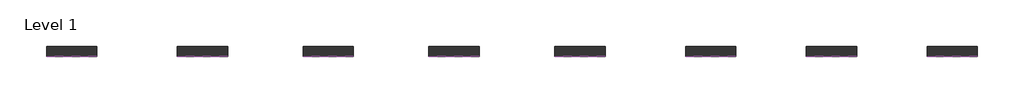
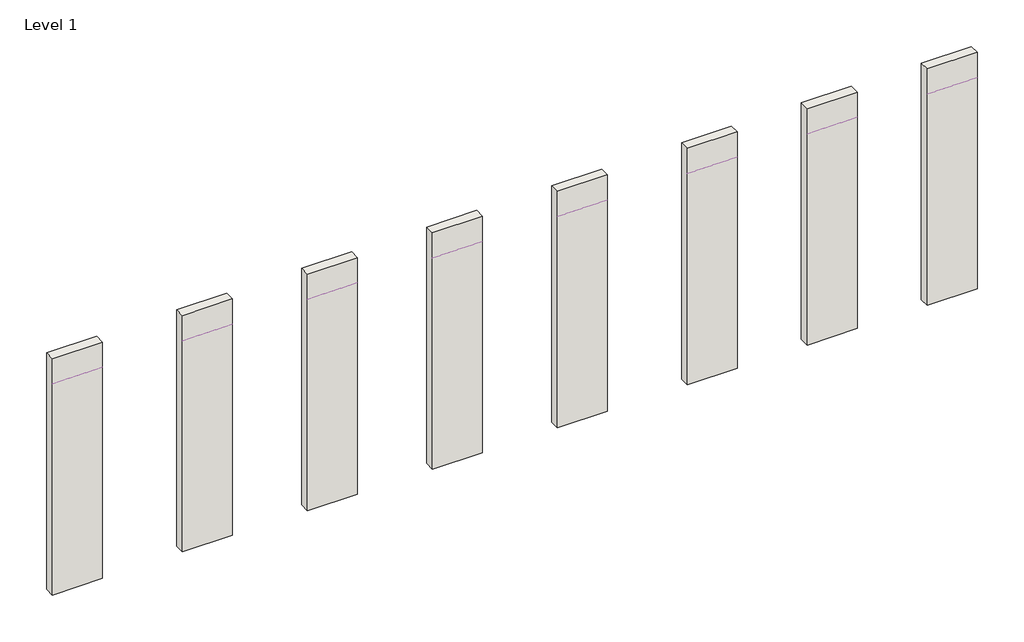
# One storey: 8 coverings, 8 walls.
"""IFC4 building model written with IfcOpenShell, lengths in millimetres."""

from ifc_helpers import new_model, si_unit, point, frame, frame_2d, origin, place, context, project, spatial, polyline, circle_curve, trimmed, segment, composite_curve, outline, extrude, element, save

model = new_model("IFC4")

# Units and contexts
model_context = context("Model", 3, world=origin())
ifc_project = project(units=[si_unit("LENGTHUNIT", "METRE", prefix="MILLI")], contexts=[model_context])

# Site, building, storey
site = spatial("IfcSite", under=ifc_project)
building = spatial("IfcBuilding", under=site)
storey = spatial("IfcBuildingStorey", under=building, Name="Level 1", Elevation=0.0)

# Coverings
placement = place(None, origin())
element("IfcCovering", 1, ObjectType="REVIGRÉS-PIGMENTO-RB-9,5X30-NAT-AREIA", at=placement, inside=storey, context=model_context, shape_type="SweptSolid", body=[
    extrude(outline(composite_curve([segment(polyline([(-6973.1153225, 4350.0), (-6980.1153225, 4350.0), (-6980.1153225, 4438.0)]), True, "CONTINUOUS"), segment(trimmed(circle_curve(frame_2d((-6973.1153225, 4438.0)), 7.0), [point((-6980.1153225, 4438.0))], [point((-6973.1153225, 4445.0))], False, "CARTESIAN"), True, "CONTINUOUS"), segment(polyline([(-6973.1153225, 4445.0), (-6973.1153225, 4350.0)]), True, "CONTINUOUS")], self_intersect=False)), frame((5792.0023157, 0.0, 0.0), z_axis=(1.0, 0.0, 0.0), x_axis=(0.0, 1.0, 0.0)), (0.0, 0.0, 1.0), 1000.0),
])
element("IfcCovering", 2, ObjectType="REVIGRÉS-PIGMENTO-RB-9,5X30-ANTISLIPNAT-AREIA", at=placement, inside=storey, context=model_context, shape_type="SweptSolid", body=[
    extrude(outline(composite_curve([segment(polyline([(-6973.1153225, 4350.0), (-6980.1153225, 4350.0), (-6980.1153225, 4438.0)]), True, "CONTINUOUS"), segment(trimmed(circle_curve(frame_2d((-6973.1153225, 4438.0)), 7.0), [point((-6980.1153225, 4438.0))], [point((-6973.1153225, 4445.0))], False, "CARTESIAN"), True, "CONTINUOUS"), segment(polyline([(-6973.1153225, 4445.0), (-6973.1153225, 4350.0)]), True, "CONTINUOUS")], self_intersect=False)), frame((8392.0023157, 0.0, 0.0), z_axis=(1.0, 0.0, 0.0), x_axis=(0.0, 1.0, 0.0)), (0.0, 0.0, 1.0), 1000.0),
])
element("IfcCovering", 3, ObjectType="REVIGRÉS-PIGMENTO-RB-9,5X30-NAT-CHUMBO", at=placement, inside=storey, context=model_context, shape_type="SweptSolid", body=[
    extrude(outline(composite_curve([segment(polyline([(-6973.1153225, 4350.0), (-6980.1153225, 4350.0), (-6980.1153225, 4438.0)]), True, "CONTINUOUS"), segment(trimmed(circle_curve(frame_2d((-6973.1153225, 4438.0)), 7.0), [point((-6980.1153225, 4438.0))], [point((-6973.1153225, 4445.0))], False, "CARTESIAN"), True, "CONTINUOUS"), segment(polyline([(-6973.1153225, 4445.0), (-6973.1153225, 4350.0)]), True, "CONTINUOUS")], self_intersect=False)), frame((10892.0023157, 0.0, 0.0), z_axis=(1.0, 0.0, 0.0), x_axis=(0.0, 1.0, 0.0)), (0.0, 0.0, 1.0), 1000.0),
])
element("IfcCovering", 4, ObjectType="REVIGRÉS-PIGMENTO-RB-9,5X30-ANTISLIPNAT-CHUMBO", at=placement, inside=storey, context=model_context, shape_type="SweptSolid", body=[
    extrude(outline(composite_curve([segment(polyline([(-6973.1153225, 4350.0), (-6980.1153225, 4350.0), (-6980.1153225, 4438.0)]), True, "CONTINUOUS"), segment(trimmed(circle_curve(frame_2d((-6973.1153225, 4438.0)), 7.0), [point((-6980.1153225, 4438.0))], [point((-6973.1153225, 4445.0))], False, "CARTESIAN"), True, "CONTINUOUS"), segment(polyline([(-6973.1153225, 4445.0), (-6973.1153225, 4350.0)]), True, "CONTINUOUS")], self_intersect=False)), frame((13392.0023157, 0.0, 0.0), z_axis=(1.0, 0.0, 0.0), x_axis=(0.0, 1.0, 0.0)), (0.0, 0.0, 1.0), 1000.0),
])
element("IfcCovering", 5, ObjectType="REVIGRÉS-PIGMENTO-RB-9,5X30-NAT-GRAFITE", at=placement, inside=storey, context=model_context, shape_type="SweptSolid", body=[
    extrude(outline(composite_curve([segment(polyline([(-6973.1153225, 4350.0), (-6980.1153225, 4350.0), (-6980.1153225, 4438.0)]), True, "CONTINUOUS"), segment(trimmed(circle_curve(frame_2d((-6973.1153225, 4438.0)), 7.0), [point((-6980.1153225, 4438.0))], [point((-6973.1153225, 4445.0))], False, "CARTESIAN"), True, "CONTINUOUS"), segment(polyline([(-6973.1153225, 4445.0), (-6973.1153225, 4350.0)]), True, "CONTINUOUS")], self_intersect=False)), frame((15892.0023157, 0.0, 0.0), z_axis=(1.0, 0.0, 0.0), x_axis=(0.0, 1.0, 0.0)), (0.0, 0.0, 1.0), 1000.0),
])
element("IfcCovering", 6, ObjectType="REVIGRÉS-PIGMENTO-RB-9,5X30-ANTISLIPNAT-GRAFITE", at=placement, inside=storey, context=model_context, shape_type="SweptSolid", body=[
    extrude(outline(composite_curve([segment(polyline([(-6973.1153225, 4350.0), (-6980.1153225, 4350.0), (-6980.1153225, 4438.0)]), True, "CONTINUOUS"), segment(trimmed(circle_curve(frame_2d((-6973.1153225, 4438.0)), 7.0), [point((-6980.1153225, 4438.0))], [point((-6973.1153225, 4445.0))], False, "CARTESIAN"), True, "CONTINUOUS"), segment(polyline([(-6973.1153225, 4445.0), (-6973.1153225, 4350.0)]), True, "CONTINUOUS")], self_intersect=False)), frame((18492.0023157, 0.0, 0.0), z_axis=(1.0, 0.0, 0.0), x_axis=(0.0, 1.0, 0.0)), (0.0, 0.0, 1.0), 1000.0),
])
element("IfcCovering", 7, ObjectType="REVIGRÉS-PIGMENTO-RB-9,5X30-NAT-LUNA", at=placement, inside=storey, context=model_context, shape_type="SweptSolid", body=[
    extrude(outline(composite_curve([segment(polyline([(-6973.1153225, 4350.0), (-6980.1153225, 4350.0), (-6980.1153225, 4438.0)]), True, "CONTINUOUS"), segment(trimmed(circle_curve(frame_2d((-6973.1153225, 4438.0)), 7.0), [point((-6980.1153225, 4438.0))], [point((-6973.1153225, 4445.0))], False, "CARTESIAN"), True, "CONTINUOUS"), segment(polyline([(-6973.1153225, 4445.0), (-6973.1153225, 4350.0)]), True, "CONTINUOUS")], self_intersect=False)), frame((20892.0023157, 0.0, 0.0), z_axis=(1.0, 0.0, 0.0), x_axis=(0.0, 1.0, 0.0)), (0.0, 0.0, 1.0), 1000.0),
])
element("IfcCovering", 8, ObjectType="REVIGRÉS-PIGMENTO-RB-9,5X30-ANTISLIPNAT-LUNA", at=placement, inside=storey, context=model_context, shape_type="SweptSolid", body=[
    extrude(outline(composite_curve([segment(polyline([(-6973.1153225, 4350.0), (-6980.1153225, 4350.0), (-6980.1153225, 4438.0)]), True, "CONTINUOUS"), segment(trimmed(circle_curve(frame_2d((-6973.1153225, 4438.0)), 7.0), [point((-6980.1153225, 4438.0))], [point((-6973.1153225, 4445.0))], False, "CARTESIAN"), True, "CONTINUOUS"), segment(polyline([(-6973.1153225, 4445.0), (-6973.1153225, 4350.0)]), True, "CONTINUOUS")], self_intersect=False)), frame((23292.0023157, 0.0, 0.0), z_axis=(1.0, 0.0, 0.0), x_axis=(0.0, 1.0, 0.0)), (0.0, 0.0, 1.0), 1000.0),
])

# Walls
element("IfcWall", 9, ObjectType="Wall 1", at=placement, inside=storey, context=model_context, shape_type="SweptSolid", body=[
    extrude(outline(polyline([(6792.0023157, -6973.1153225), (5792.0023157, -6973.1153225), (5792.0023157, -6773.1153225), (6792.0023157, -6773.1153225), (6792.0023157, -6973.1153225)])), frame((0.0, 0.0, -118.9026935), z_axis=(0.0, 0.0, 1.0), x_axis=(1.0, 0.0, 0.0)), (0.0, 0.0, 1.0), 5000.0),
])
element("IfcWall", 10, ObjectType="Wall 1", at=placement, inside=storey, context=model_context, shape_type="SweptSolid", body=[
    extrude(outline(polyline([(9392.0023157, -6973.1153225), (8392.0023157, -6973.1153225), (8392.0023157, -6773.1153225), (9392.0023157, -6773.1153225), (9392.0023157, -6973.1153225)])), frame((0.0, 0.0, -118.9026935), z_axis=(0.0, 0.0, 1.0), x_axis=(1.0, 0.0, 0.0)), (0.0, 0.0, 1.0), 5000.0),
])
element("IfcWall", 11, ObjectType="Wall 1", at=placement, inside=storey, context=model_context, shape_type="SweptSolid", body=[
    extrude(outline(polyline([(11892.0023157, -6973.1153225), (10892.0023157, -6973.1153225), (10892.0023157, -6773.1153225), (11892.0023157, -6773.1153225), (11892.0023157, -6973.1153225)])), frame((0.0, 0.0, -118.9026935), z_axis=(0.0, 0.0, 1.0), x_axis=(1.0, 0.0, 0.0)), (0.0, 0.0, 1.0), 5000.0),
])
element("IfcWall", 12, ObjectType="Wall 1", at=placement, inside=storey, context=model_context, shape_type="SweptSolid", body=[
    extrude(outline(polyline([(14392.0023157, -6973.1153225), (13392.0023157, -6973.1153225), (13392.0023157, -6773.1153225), (14392.0023157, -6773.1153225), (14392.0023157, -6973.1153225)])), frame((0.0, 0.0, -118.9026935), z_axis=(0.0, 0.0, 1.0), x_axis=(1.0, 0.0, 0.0)), (0.0, 0.0, 1.0), 5000.0),
])
element("IfcWall", 13, ObjectType="Wall 1", at=placement, inside=storey, context=model_context, shape_type="SweptSolid", body=[
    extrude(outline(polyline([(16892.0023157, -6973.1153225), (15892.0023157, -6973.1153225), (15892.0023157, -6773.1153225), (16892.0023157, -6773.1153225), (16892.0023157, -6973.1153225)])), frame((0.0, 0.0, -118.9026935), z_axis=(0.0, 0.0, 1.0), x_axis=(1.0, 0.0, 0.0)), (0.0, 0.0, 1.0), 5000.0),
])
element("IfcWall", 14, ObjectType="Wall 1", at=placement, inside=storey, context=model_context, shape_type="SweptSolid", body=[
    extrude(outline(polyline([(19492.0023157, -6973.1153225), (18492.0023157, -6973.1153225), (18492.0023157, -6773.1153225), (19492.0023157, -6773.1153225), (19492.0023157, -6973.1153225)])), frame((0.0, 0.0, -118.9026935), z_axis=(0.0, 0.0, 1.0), x_axis=(1.0, 0.0, 0.0)), (0.0, 0.0, 1.0), 5000.0),
])
element("IfcWall", 15, ObjectType="Wall 1", at=placement, inside=storey, context=model_context, shape_type="SweptSolid", body=[
    extrude(outline(polyline([(21892.0023157, -6973.1153225), (20892.0023157, -6973.1153225), (20892.0023157, -6773.1153225), (21892.0023157, -6773.1153225), (21892.0023157, -6973.1153225)])), frame((0.0, 0.0, -118.9026935), z_axis=(0.0, 0.0, 1.0), x_axis=(1.0, 0.0, 0.0)), (0.0, 0.0, 1.0), 5000.0),
])
element("IfcWall", 16, ObjectType="Wall 1", at=placement, inside=storey, context=model_context, shape_type="SweptSolid", body=[
    extrude(outline(polyline([(24292.0023157, -6973.1153225), (23292.0023157, -6973.1153225), (23292.0023157, -6773.1153225), (24292.0023157, -6773.1153225), (24292.0023157, -6973.1153225)])), frame((0.0, 0.0, -118.9026935), z_axis=(0.0, 0.0, 1.0), x_axis=(1.0, 0.0, 0.0)), (0.0, 0.0, 1.0), 5000.0),
])

save(model, "model.ifc")
